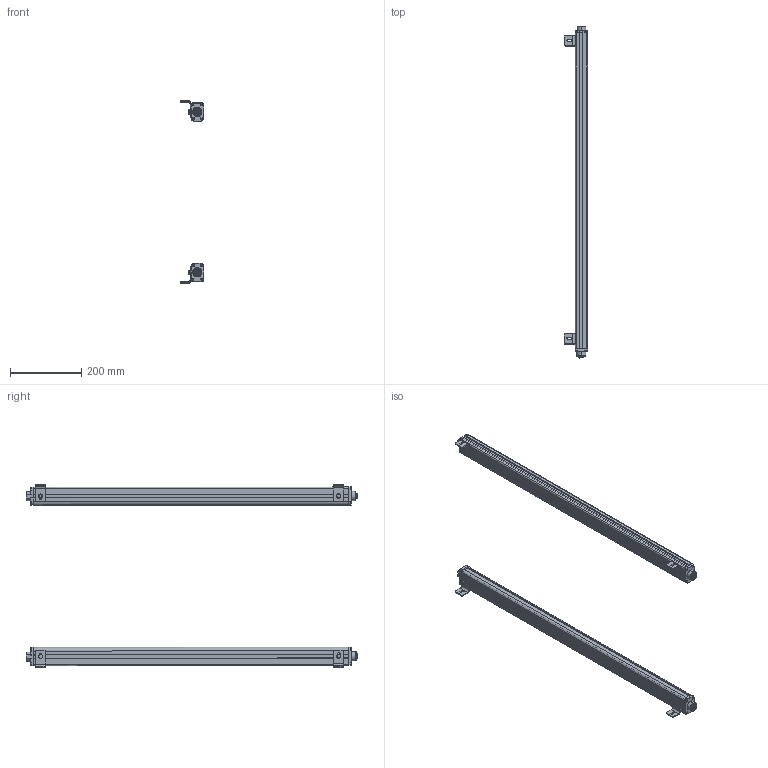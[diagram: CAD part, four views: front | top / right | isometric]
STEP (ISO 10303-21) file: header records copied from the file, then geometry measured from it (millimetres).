
FILE_DESCRIPTION (( 'STEP AP214' ), '1' );
FILE_NAME ('esn2240.STEP', '2018-03-09T10:36:47', ( '' ), ( '' ), 'SwSTEP 2.0', 'SolidWorks 2017', '' );
FILE_SCHEMA (( 'AUTOMOTIVE_DESIGN' ));
Length unit declared in the file: millimetre
Products named in the file (12): esndg22240; lx2240; esndg1z2240; zj2240; m6-ls2240; pcb2240; hk2240; lgp2240; esn22240; esn2240; esndg12240; hkct12240
Assembly tree (40 placements, depth 2):
  esn2240
    esn22240  x2
    esndg12240
    pcb2240  x2
    esndg22240  x2
    lgp2240  x2
    hkct12240  x2
    lx2240  x16
    hk2240  x4
    zj2240  x4
    m6-ls2240  x4
    esndg1z2240
Bounding box: 64.8 x 930.32 x 512.28 mm (x, y, z)
Volume: 1212895.5 mm3; surface area: 948695 mm2
Topology: 40 solids, 40 shells, 2247 faces, 5931 edges, 3778 vertices
Faces by surface type: cylinder 1081, plane 706, bspline 460
Entity records: 185938 total; most frequent: CARTESIAN_POINT 167068, ORIENTED_EDGE 4062, DIRECTION 3520, EDGE_CURVE 2031, VERTEX_POINT 1298, AXIS2_PLACEMENT_3D 1277, LINE 966, VECTOR 966
